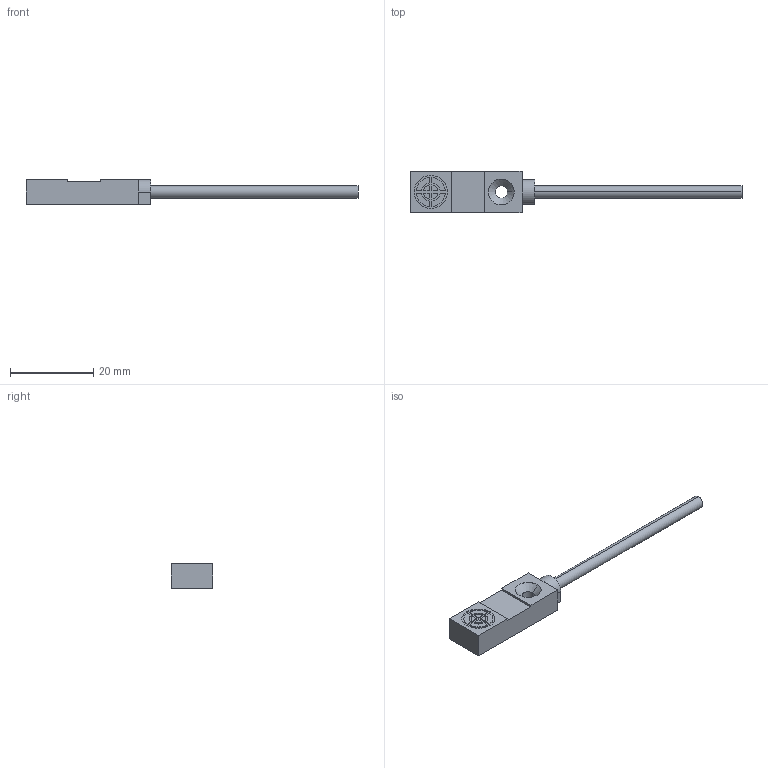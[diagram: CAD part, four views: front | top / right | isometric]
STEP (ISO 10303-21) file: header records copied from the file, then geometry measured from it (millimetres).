
FILE_DESCRIPTION (( 'STEP AP214' ), '1' );
FILE_NAME ('SP10-B.STEP', '2025-09-10T11:27:43', ( 'Windows User' ), ( 'P R C' ), 'SwSTEP 2.0', 'SolidWorks 2023', '' );
FILE_SCHEMA (( 'AUTOMOTIVE_DESIGN' ));
Length unit declared in the file: millimetre
Products named in the file (1): SP10-B
Bounding box: 80 x 10 x 6 mm (x, y, z)
Volume: 1965.5 mm3; surface area: 1576.2 mm2
Topology: 1 solids, 1 shells, 63 faces, 148 edges, 97 vertices
Faces by surface type: plane 40, cylinder 21, cone 2
Entity records: 1832 total; most frequent: DIRECTION 319, CARTESIAN_POINT 309, ORIENTED_EDGE 296, EDGE_CURVE 148, AXIS2_PLACEMENT_3D 107, LINE 105, VECTOR 105, VERTEX_POINT 97
